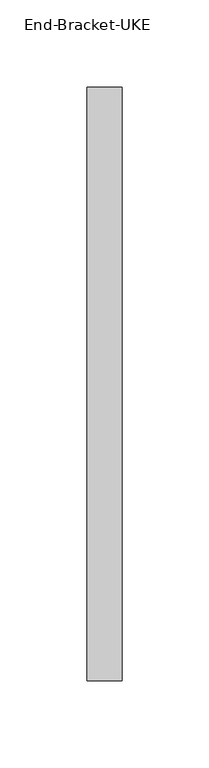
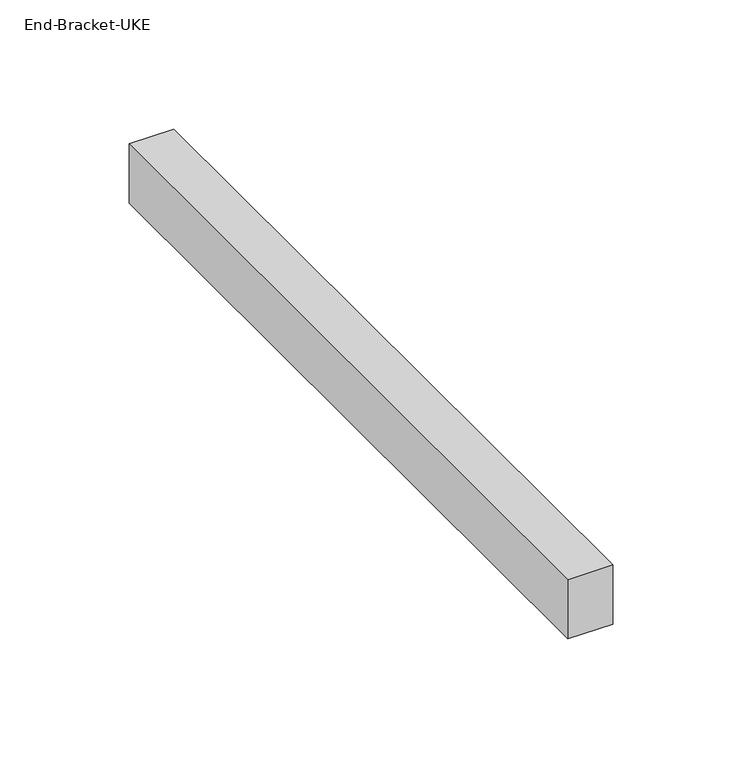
"""IFC4 building model written with IfcOpenShell, lengths in millimetres: cable carrier fitting geometry, Electrical-Installations_Hager_End-Bracket-UKE : End-Bracket-UKE."""

from ifc_helpers import new_model, si_unit, frame, origin, place, context, project, spatial, polyline, outline, extrude, source, transform, mapped, element, save


def end_bracket_uke_2c302845(model_context):
    return source(origin(), model_context, "Body", "SweptSolid", [
        extrude(outline(polyline([(0.0, -170.0), (0.0, 170.0), (20.0, 170.0), (20.0, -170.0), (0.0, -170.0)])), frame((0.0, 0.0, -14.0), z_axis=(0.0, 0.0, 1.0), x_axis=(1.0, 0.0, 0.0)), (0.0, 0.0, 1.0), 28.0),
    ])


if __name__ == "__main__":
    model = new_model("IFC4")
    model_context = context("Model", 3, world=origin())
    ifc_project = project(units=[si_unit("LENGTHUNIT", "METRE", prefix="MILLI")], contexts=[model_context])
    site = spatial("IfcSite", under=ifc_project)
    building = spatial("IfcBuilding", under=site)
    placement = place(None, origin())
    end_bracket_uke_shape = end_bracket_uke_2c302845(model_context)
    element("IfcCableCarrierFitting", 1, ObjectType="Electrical-Installations_Hager_End-Bracket-UKE : End-Bracket-UKE", at=placement, inside=building, context=model_context, shape_type="MappedRepresentation", body=[
        mapped(end_bracket_uke_shape, transform((0.0, 0.0, 0.0), x_axis=(1.0, 0.0, 0.0), y_axis=(0.0, 1.0, 0.0), z_axis=(0.0, 0.0, 1.0))),
    ])
    save(model, "model.ifc")
